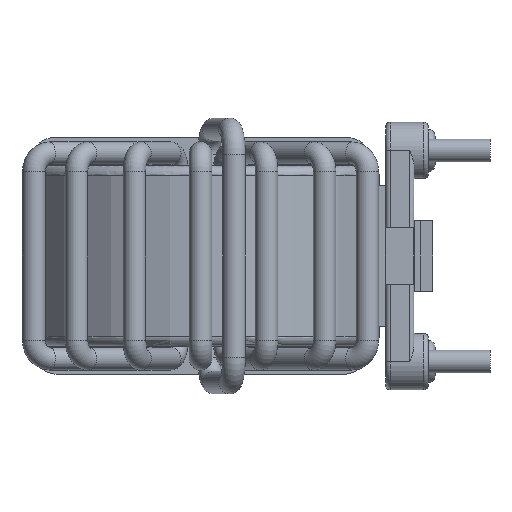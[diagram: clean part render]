
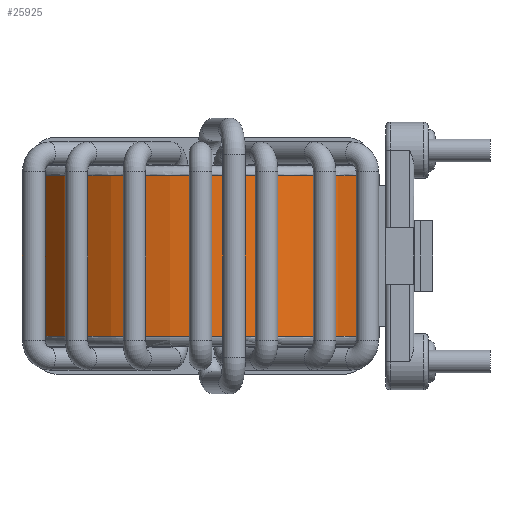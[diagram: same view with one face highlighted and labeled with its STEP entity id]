
A CAD part, left-side view. The second image highlights one B-rep face of the part: STEP entity #25925.
In plain terms, the highlighted cylindrical face has radius 12.7 mm (diameter 25.4 mm), a full revolution.
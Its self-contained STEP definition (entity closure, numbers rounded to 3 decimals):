
#158=FACE_BOUND('',#7657,.T.);
#159=FACE_BOUND('',#7658,.T.);
#2939=LINE('',#45591,#4839);
#2940=LINE('',#45593,#4840);
#2941=LINE('',#45594,#4841);
#2942=LINE('',#45595,#4842);
#2943=LINE('',#45596,#4843);
#4839=VECTOR('',#31774,12.7);
#4840=VECTOR('',#31777,10.);
#4841=VECTOR('',#31778,10.);
#4842=VECTOR('',#31779,10.);
#4843=VECTOR('',#31780,10.);
#5057=CYLINDRICAL_SURFACE('',#27231,12.7);
#6232=FACE_OUTER_BOUND('',#7656,.T.);
#7656=EDGE_LOOP('',(#21872,#21873,#21874,#21875,#21876));
#7657=EDGE_LOOP('',(#21877,#21878,#21879,#21880));
#7658=EDGE_LOOP('',(#21881,#21882,#21883,#21884));
#8976=CIRCLE('',#26478,12.7);
#9211=CIRCLE('',#27196,12.7);
#9215=CIRCLE('',#27201,12.7);
#9217=CIRCLE('',#27204,12.7);
#9221=CIRCLE('',#27209,12.7);
#9229=CIRCLE('',#27232,12.7);
#9230=CIRCLE('',#27233,12.7);
#10359=VERTEX_POINT('',#37324);
#11681=VERTEX_POINT('',#45463);
#11682=VERTEX_POINT('',#45464);
#11686=VERTEX_POINT('',#45475);
#11687=VERTEX_POINT('',#45477);
#11689=VERTEX_POINT('',#45483);
#11690=VERTEX_POINT('',#45484);
#11694=VERTEX_POINT('',#45495);
#11695=VERTEX_POINT('',#45497);
#11726=VERTEX_POINT('',#45588);
#11727=VERTEX_POINT('',#45589);
#13127=EDGE_CURVE('',#10359,#10359,#8976,.T.);
#15159=EDGE_CURVE('',#11681,#11682,#9211,.T.);
#15166=EDGE_CURVE('',#11687,#11686,#9215,.T.);
#15169=EDGE_CURVE('',#11689,#11690,#9217,.T.);
#15176=EDGE_CURVE('',#11695,#11694,#9221,.T.);
#15221=EDGE_CURVE('',#11726,#11727,#9229,.T.);
#15222=EDGE_CURVE('',#11726,#10359,#2939,.T.);
#15223=EDGE_CURVE('',#11727,#11726,#9230,.T.);
#15224=EDGE_CURVE('',#11681,#11686,#2940,.T.);
#15225=EDGE_CURVE('',#11687,#11682,#2941,.T.);
#15226=EDGE_CURVE('',#11695,#11690,#2942,.T.);
#15227=EDGE_CURVE('',#11689,#11694,#2943,.T.);
#21872=ORIENTED_EDGE('',*,*,#15221,.F.);
#21873=ORIENTED_EDGE('',*,*,#15222,.T.);
#21874=ORIENTED_EDGE('',*,*,#13127,.F.);
#21875=ORIENTED_EDGE('',*,*,#15222,.F.);
#21876=ORIENTED_EDGE('',*,*,#15223,.F.);
#21877=ORIENTED_EDGE('',*,*,#15166,.T.);
#21878=ORIENTED_EDGE('',*,*,#15224,.F.);
#21879=ORIENTED_EDGE('',*,*,#15159,.T.);
#21880=ORIENTED_EDGE('',*,*,#15225,.F.);
#21881=ORIENTED_EDGE('',*,*,#15169,.T.);
#21882=ORIENTED_EDGE('',*,*,#15226,.F.);
#21883=ORIENTED_EDGE('',*,*,#15176,.T.);
#21884=ORIENTED_EDGE('',*,*,#15227,.F.);
#25925=ADVANCED_FACE('',(#6232,#158,#159),#5057,.T.);
#26478=AXIS2_PLACEMENT_3D('',#37325,#29043,#29044);
#27196=AXIS2_PLACEMENT_3D('',#45465,#31656,#31657);
#27201=AXIS2_PLACEMENT_3D('',#45478,#31669,#31670);
#27204=AXIS2_PLACEMENT_3D('',#45485,#31676,#31677);
#27209=AXIS2_PLACEMENT_3D('',#45498,#31689,#31690);
#27231=AXIS2_PLACEMENT_3D('',#45587,#31770,#31771);
#27232=AXIS2_PLACEMENT_3D('',#45590,#31772,#31773);
#27233=AXIS2_PLACEMENT_3D('',#45592,#31775,#31776);
#29043=DIRECTION('center_axis',(0.,0.,
-1.));
#29044=DIRECTION('ref_axis',(1.,0.,0.));
#31656=DIRECTION('center_axis',(0.,0.,
-1.));
#31657=DIRECTION('ref_axis',(1.,0.,0.));
#31669=DIRECTION('center_axis',(0.,0.,
1.));
#31670=DIRECTION('ref_axis',(1.,0.,0.));
#31676=DIRECTION('center_axis',(0.,0.,
-1.));
#31677=DIRECTION('ref_axis',(1.,0.,0.));
#31689=DIRECTION('center_axis',(0.,0.,
1.));
#31690=DIRECTION('ref_axis',(1.,0.,0.));
#31770=DIRECTION('center_axis',(0.,0.,
1.));
#31771=DIRECTION('ref_axis',(1.,0.,0.));
#31772=DIRECTION('center_axis',(0.,0.,
1.));
#31773=DIRECTION('ref_axis',(1.,0.,0.));
#31774=DIRECTION('',(0.,0.,-1.));
#31775=DIRECTION('center_axis',(0.,0.,
1.));
#31776=DIRECTION('ref_axis',(1.,0.,0.));
#31777=DIRECTION('',(0.,0.,1.));
#31778=DIRECTION('',(0.,0.,-1.));
#31779=DIRECTION('',(0.,0.,-1.));
#31780=DIRECTION('',(0.,0.,1.));
#37324=CARTESIAN_POINT('',(-12.7,15.15,-5.7));
#37325=CARTESIAN_POINT('Origin',(0.,15.15,-5.7));
#45463=CARTESIAN_POINT('',(4.811,3.396,-5.));
#45464=CARTESIAN_POINT('',(2.886,2.782,-5.));
#45465=CARTESIAN_POINT('Origin',(0.,15.15,-5.));
#45475=CARTESIAN_POINT('',(4.811,3.396,5.));
#45477=CARTESIAN_POINT('',(2.886,2.782,5.));
#45478=CARTESIAN_POINT('Origin',(0.,15.15,5.));
#45483=CARTESIAN_POINT('',(-2.886,2.782,-5.));
#45484=CARTESIAN_POINT('',(-4.811,3.396,-5.));
#45485=CARTESIAN_POINT('Origin',(0.,15.15,-5.));
#45495=CARTESIAN_POINT('',(-2.886,2.782,5.));
#45497=CARTESIAN_POINT('',(-4.811,3.396,5.));
#45498=CARTESIAN_POINT('Origin',(0.,15.15,5.));
#45587=CARTESIAN_POINT('Origin',(0.,15.15,-5.2));
#45588=CARTESIAN_POINT('',(-12.7,15.15,5.7));
#45589=CARTESIAN_POINT('',(12.7,15.15,5.7));
#45590=CARTESIAN_POINT('Origin',(0.,15.15,5.7));
#45591=CARTESIAN_POINT('',(-12.7,15.15,-5.2));
#45592=CARTESIAN_POINT('Origin',(0.,15.15,5.7));
#45593=CARTESIAN_POINT('',(4.811,3.396,-5.2));
#45594=CARTESIAN_POINT('',(2.886,2.782,-5.2));
#45595=CARTESIAN_POINT('',(-4.811,3.396,-5.2));
#45596=CARTESIAN_POINT('',(-2.886,2.782,-5.2));
